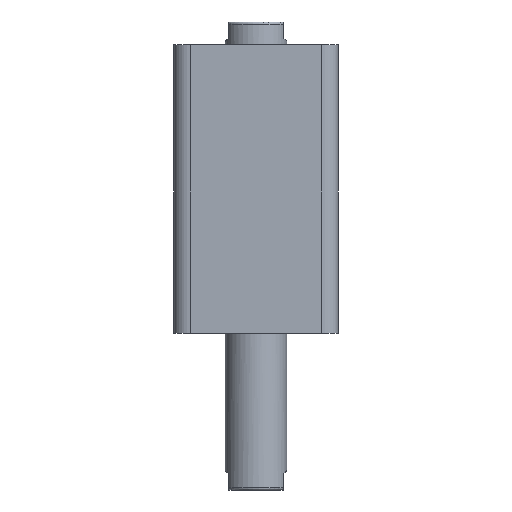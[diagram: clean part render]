
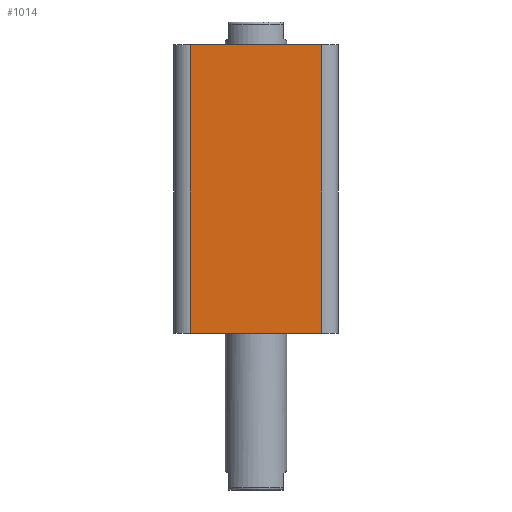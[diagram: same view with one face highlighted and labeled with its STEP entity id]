
A CAD part, front view. The second image highlights one B-rep face of the part: STEP entity #1014.
In plain terms, the highlighted planar face has unit normal (0, -1, 0).
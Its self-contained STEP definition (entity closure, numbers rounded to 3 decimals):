
#6 = CARTESIAN_POINT ( 'NONE',  ( -32., -40., 140. ) ) ;
#348 = FACE_OUTER_BOUND ( 'NONE', #857, .T. ) ;
#675 = LINE ( 'NONE', #1910, #692 ) ;
#684 = LINE ( 'NONE', #1920, #688 ) ;
#687 = LINE ( 'NONE', #1922, #690 ) ;
#688 = VECTOR ( 'NONE', #1921, 1000. ) ;
#690 = VECTOR ( 'NONE', #1923, 1000. ) ;
#691 = LINE ( 'NONE', #1925, #694 ) ;
#692 = VECTOR ( 'NONE', #1924, 1000. ) ;
#694 = VECTOR ( 'NONE', #1926, 1000. ) ;
#819 = VERTEX_POINT ( 'NONE', #6 ) ;
#857 = EDGE_LOOP ( 'NONE', ( #1503, #1580, #1570, #1568 ) ) ;
#988 = DIRECTION ( 'NONE',  ( 0., 0., 1. ) ) ;
#989 = DIRECTION ( 'NONE',  ( 0., 1., 0. ) ) ;
#990 = PLANE ( 'NONE',  #2536 ) ;
#992 = CARTESIAN_POINT ( 'NONE',  ( -40., -40., 140. ) ) ;
#1014 = ADVANCED_FACE ( 'NONE', ( #348 ), #990, .F. ) ;
#1378 = VERTEX_POINT ( 'NONE', #2724 ) ;
#1383 = VERTEX_POINT ( 'NONE', #2727 ) ;
#1384 = VERTEX_POINT ( 'NONE', #2722 ) ;
#1503 = ORIENTED_EDGE ( 'NONE', *, *, #2457, .F. ) ;
#1568 = ORIENTED_EDGE ( 'NONE', *, *, #2460, .T. ) ;
#1570 = ORIENTED_EDGE ( 'NONE', *, *, #2459, .T. ) ;
#1580 = ORIENTED_EDGE ( 'NONE', *, *, #2458, .T. ) ;
#1910 = CARTESIAN_POINT ( 'NONE',  ( -40., -40., 0. ) ) ;
#1920 = CARTESIAN_POINT ( 'NONE',  ( -40., -40., 140. ) ) ;
#1921 = DIRECTION ( 'NONE',  ( 1., 0., 0. ) ) ;
#1922 = CARTESIAN_POINT ( 'NONE',  ( -32., -40., 140. ) ) ;
#1923 = DIRECTION ( 'NONE',  ( 0., 0., -1. ) ) ;
#1924 = DIRECTION ( 'NONE',  ( 1., 0., 0. ) ) ;
#1925 = CARTESIAN_POINT ( 'NONE',  ( 32., -40., 140. ) ) ;
#1926 = DIRECTION ( 'NONE',  ( 0., 0., 1. ) ) ;
#2457 = EDGE_CURVE ( 'NONE', #819, #1383, #684, .T. ) ;
#2458 = EDGE_CURVE ( 'NONE', #819, #1384, #687, .T. ) ;
#2459 = EDGE_CURVE ( 'NONE', #1384, #1378, #675, .T. ) ;
#2460 = EDGE_CURVE ( 'NONE', #1378, #1383, #691, .T. ) ;
#2536 = AXIS2_PLACEMENT_3D ( 'NONE', #992, #989, #988 ) ;
#2722 = CARTESIAN_POINT ( 'NONE',  ( -32., -40., 0. ) ) ;
#2724 = CARTESIAN_POINT ( 'NONE',  ( 32., -40., 0. ) ) ;
#2727 = CARTESIAN_POINT ( 'NONE',  ( 32., -40., 140. ) ) ;
